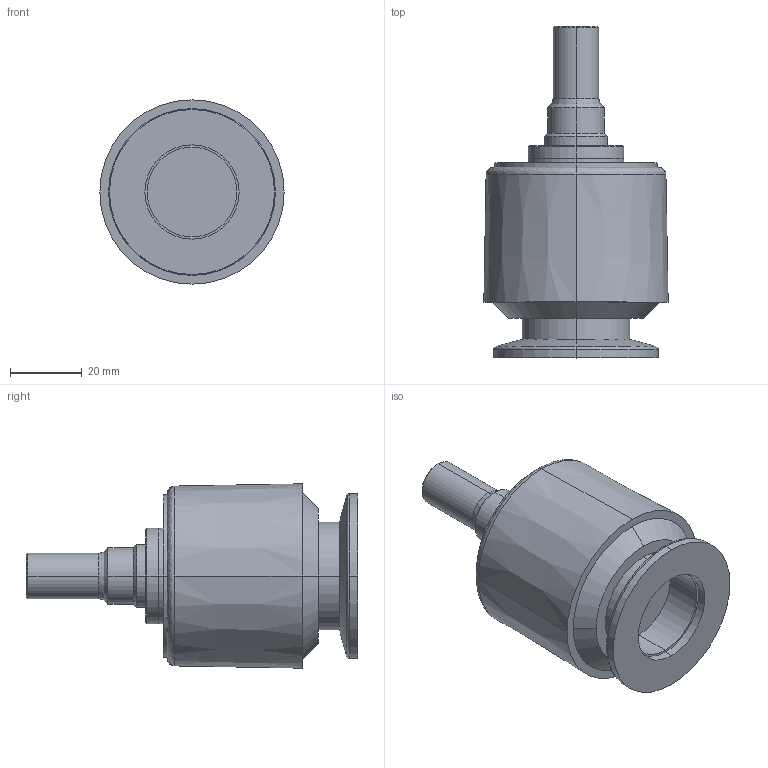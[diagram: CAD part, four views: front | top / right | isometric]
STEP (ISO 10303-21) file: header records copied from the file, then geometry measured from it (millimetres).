
FILE_DESCRIPTION((''),'2;1');
FILE_NAME('U:\Projekte\11741 3D Modelle\Leybold\15752.stp','2004-12-17T08:29:40',('BEM'),(''),'Autodesk Inventor 9','Autodesk Inventor 9','');
FILE_SCHEMA(('AUTOMOTIVE_DESIGN { 1 0 10303 214 1 1 1 1 }'));
Length unit declared in the file: millimetre
Products named in the file (1): 15752
Bounding box: 51.27 x 92.3 x 51.27 mm (x, y, z)
Volume: 93920.1 mm3; surface area: 16978 mm2
Topology: 1 solids, 1 shells, 106 faces, 245 edges, 154 vertices
Faces by surface type: cylinder 60, cone 23, plane 15, bspline 8
Entity records: 3410 total; most frequent: CARTESIAN_POINT 858, DIRECTION 605, ORIENTED_EDGE 490, AXIS2_PLACEMENT_3D 261, EDGE_CURVE 245, CIRCLE 162, VERTEX_POINT 154, EDGE_LOOP 119
